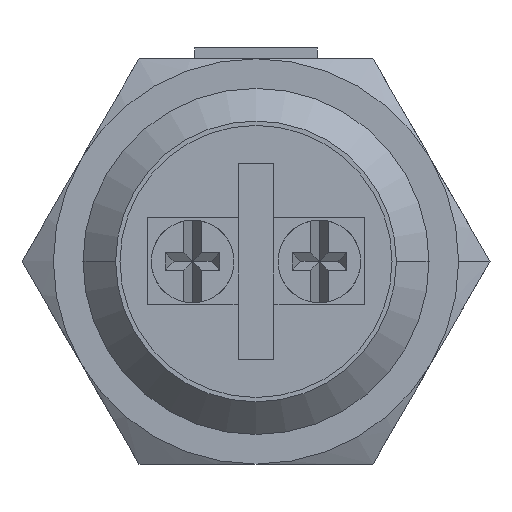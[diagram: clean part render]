
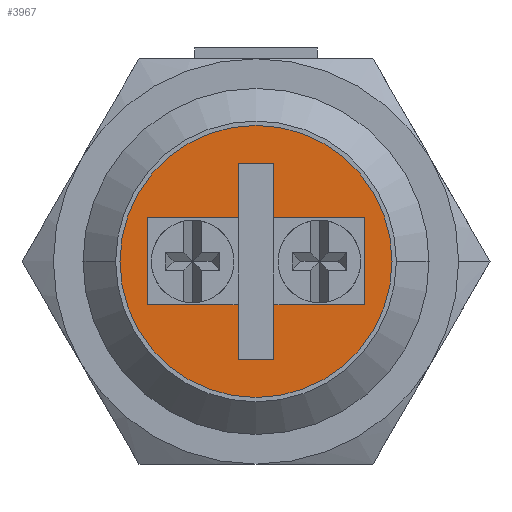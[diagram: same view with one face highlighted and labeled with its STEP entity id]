
A CAD part, front view. The second image highlights one B-rep face of the part: STEP entity #3967.
In plain terms, the highlighted planar face has unit normal (0, -1, 0).
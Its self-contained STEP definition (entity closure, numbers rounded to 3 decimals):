
#623 = LINE ( 'NONE', #624, #2750 ) ;
#624 = CARTESIAN_POINT ( 'NONE',  ( -0.825, 0., 4.5 ) ) ;
#625 = DIRECTION ( 'NONE',  ( -1., 0., 0. ) ) ;
#626 = LINE ( 'NONE', #627, #2714 ) ;
#627 = CARTESIAN_POINT ( 'NONE',  ( -0.825, 0., -4.5 ) ) ;
#628 = DIRECTION ( 'NONE',  ( 0., 0., -1. ) ) ;
#629 = LINE ( 'NONE', #630, #2713 ) ;
#630 = CARTESIAN_POINT ( 'NONE',  ( -5., 0., 2. ) ) ;
#631 = DIRECTION ( 'NONE',  ( -1., 0., 0. ) ) ;
#632 = LINE ( 'NONE', #633, #2712 ) ;
#633 = CARTESIAN_POINT ( 'NONE',  ( -5., 0., -2. ) ) ;
#634 = DIRECTION ( 'NONE',  ( 0., 0., -1. ) ) ;
#635 = LINE ( 'NONE', #636, #2711 ) ;
#636 = CARTESIAN_POINT ( 'NONE',  ( -5., 0., -2. ) ) ;
#637 = DIRECTION ( 'NONE',  ( 1., 0., 0. ) ) ;
#638 = LINE ( 'NONE', #639, #2710 ) ;
#639 = CARTESIAN_POINT ( 'NONE',  ( -0.825, 0., -4.5 ) ) ;
#640 = DIRECTION ( 'NONE',  ( 0., 0., -1. ) ) ;
#641 = LINE ( 'NONE', #642, #2748 ) ;
#642 = CARTESIAN_POINT ( 'NONE',  ( -0.825, 0., -4.5 ) ) ;
#643 = DIRECTION ( 'NONE',  ( 1., 0., 0. ) ) ;
#644 = LINE ( 'NONE', #645, #2361 ) ;
#645 = CARTESIAN_POINT ( 'NONE',  ( 0.825, 0., -4.5 ) ) ;
#646 = DIRECTION ( 'NONE',  ( 0., 0., 1. ) ) ;
#688 = PLANE ( 'NONE',  #2351 ) ;
#689 = CARTESIAN_POINT ( 'NONE',  ( 0., 0., 0. ) ) ;
#690 = DIRECTION ( 'NONE',  ( 0., -1., 0. ) ) ;
#691 = DIRECTION ( 'NONE',  ( 1., 0., 0. ) ) ;
#1130 = CARTESIAN_POINT ( 'NONE',  ( 0., 0., 0. ) ) ;
#1137 = DIRECTION ( 'NONE',  ( 0., 1., 0. ) ) ;
#1138 = DIRECTION ( 'NONE',  ( -1., 0., 0. ) ) ;
#1344 = CARTESIAN_POINT ( 'NONE',  ( -6.25, 0., 0. ) ) ;
#1373 = CARTESIAN_POINT ( 'NONE',  ( 6.25, 0., 0. ) ) ;
#1396 = CARTESIAN_POINT ( 'NONE',  ( -0.825, 0., -2. ) ) ;
#1403 = CARTESIAN_POINT ( 'NONE',  ( 0.825, 0., -4.5 ) ) ;
#1406 = CARTESIAN_POINT ( 'NONE',  ( -0.825, 0., -4.5 ) ) ;
#1407 = CARTESIAN_POINT ( 'NONE',  ( 5., 0., 2. ) ) ;
#1409 = CARTESIAN_POINT ( 'NONE',  ( 0.825, 0., 4.5 ) ) ;
#1417 = CARTESIAN_POINT ( 'NONE',  ( 5., 0., -2. ) ) ;
#1422 = CARTESIAN_POINT ( 'NONE',  ( 0.825, 0., -2. ) ) ;
#1423 = CARTESIAN_POINT ( 'NONE',  ( 0.825, 0., 2. ) ) ;
#1430 = CARTESIAN_POINT ( 'NONE',  ( -0.825, 0., 2. ) ) ;
#1431 = CARTESIAN_POINT ( 'NONE',  ( -0.825, 0., 4.5 ) ) ;
#1432 = CARTESIAN_POINT ( 'NONE',  ( -5., 0., -2. ) ) ;
#1436 = CARTESIAN_POINT ( 'NONE',  ( -5., 0., 2. ) ) ;
#2344 = FACE_OUTER_BOUND ( 'NONE', #5900, .T. ) ;
#2351 = AXIS2_PLACEMENT_3D ( 'NONE', #689, #690, #691 ) ;
#2354 = FACE_BOUND ( 'NONE', #5859, .T. ) ;
#2361 = VECTOR ( 'NONE', #646, 1000. ) ;
#2576 = AXIS2_PLACEMENT_3D ( 'NONE', #1130, #1137, #1138 ) ;
#2710 = VECTOR ( 'NONE', #640, 1000. ) ;
#2711 = VECTOR ( 'NONE', #637, 1000. ) ;
#2712 = VECTOR ( 'NONE', #634, 1000. ) ;
#2713 = VECTOR ( 'NONE', #631, 1000. ) ;
#2714 = VECTOR ( 'NONE', #628, 1000. ) ;
#2748 = VECTOR ( 'NONE', #643, 1000. ) ;
#2750 = VECTOR ( 'NONE', #625, 1000. ) ;
#3101 = VECTOR ( 'NONE', #5393, 1000. ) ;
#3122 = VECTOR ( 'NONE', #5384, 1000. ) ;
#3131 = VECTOR ( 'NONE', #5340, 1000. ) ;
#3199 = VECTOR ( 'NONE', #5333, 1000. ) ;
#3204 = AXIS2_PLACEMENT_3D ( 'NONE', #5334, #5341, #5342 ) ;
#3630 = CIRCLE ( 'NONE', #3204, 6.25 ) ;
#3695 = CIRCLE ( 'NONE', #2576, 6.25 ) ;
#3732 = EDGE_CURVE ( 'NONE', #5597, #5587, #5331, .T. ) ;
#3734 = EDGE_CURVE ( 'NONE', #5603, #5589, #5338, .T. ) ;
#3735 = EDGE_CURVE ( 'NONE', #5553, #5524, #3630, .T. ) ;
#3748 = EDGE_CURVE ( 'NONE', #5602, #5597, #5382, .T. ) ;
#3751 = EDGE_CURVE ( 'NONE', #5587, #5603, #5391, .T. ) ;
#3948 = EDGE_CURVE ( 'NONE', #5589, #5611, #623, .T. ) ;
#3949 = EDGE_CURVE ( 'NONE', #5611, #5610, #626, .T. ) ;
#3950 = EDGE_CURVE ( 'NONE', #5610, #5616, #629, .T. ) ;
#3951 = EDGE_CURVE ( 'NONE', #5616, #5612, #632, .T. ) ;
#3952 = EDGE_CURVE ( 'NONE', #5612, #5576, #635, .T. ) ;
#3953 = EDGE_CURVE ( 'NONE', #5576, #5586, #638, .T. ) ;
#3954 = EDGE_CURVE ( 'NONE', #5586, #5583, #641, .T. ) ;
#3955 = EDGE_CURVE ( 'NONE', #5583, #5602, #644, .T. ) ;
#3967 = ADVANCED_FACE ( 'NONE', ( #2344, #2354 ), #688, .T. ) ;
#4085 = EDGE_CURVE ( 'NONE', #5524, #5553, #3695, .T. ) ;
#5331 = LINE ( 'NONE', #5332, #3199 ) ;
#5332 = CARTESIAN_POINT ( 'NONE',  ( 5., 0., -2. ) ) ;
#5333 = DIRECTION ( 'NONE',  ( 0., 0., 1. ) ) ;
#5334 = CARTESIAN_POINT ( 'NONE',  ( 0., 0., 0. ) ) ;
#5338 = LINE ( 'NONE', #5339, #3131 ) ;
#5339 = CARTESIAN_POINT ( 'NONE',  ( 0.825, 0., -4.5 ) ) ;
#5340 = DIRECTION ( 'NONE',  ( 0., 0., 1. ) ) ;
#5341 = DIRECTION ( 'NONE',  ( 0., 1., 0. ) ) ;
#5342 = DIRECTION ( 'NONE',  ( -1., 0., 0. ) ) ;
#5382 = LINE ( 'NONE', #5383, #3122 ) ;
#5383 = CARTESIAN_POINT ( 'NONE',  ( -5., 0., -2. ) ) ;
#5384 = DIRECTION ( 'NONE',  ( 1., 0., 0. ) ) ;
#5391 = LINE ( 'NONE', #5392, #3101 ) ;
#5392 = CARTESIAN_POINT ( 'NONE',  ( -5., 0., 2. ) ) ;
#5393 = DIRECTION ( 'NONE',  ( -1., 0., 0. ) ) ;
#5524 = VERTEX_POINT ( 'NONE', #1344 ) ;
#5553 = VERTEX_POINT ( 'NONE', #1373 ) ;
#5576 = VERTEX_POINT ( 'NONE', #1396 ) ;
#5583 = VERTEX_POINT ( 'NONE', #1403 ) ;
#5586 = VERTEX_POINT ( 'NONE', #1406 ) ;
#5587 = VERTEX_POINT ( 'NONE', #1407 ) ;
#5589 = VERTEX_POINT ( 'NONE', #1409 ) ;
#5597 = VERTEX_POINT ( 'NONE', #1417 ) ;
#5602 = VERTEX_POINT ( 'NONE', #1422 ) ;
#5603 = VERTEX_POINT ( 'NONE', #1423 ) ;
#5610 = VERTEX_POINT ( 'NONE', #1430 ) ;
#5611 = VERTEX_POINT ( 'NONE', #1431 ) ;
#5612 = VERTEX_POINT ( 'NONE', #1432 ) ;
#5616 = VERTEX_POINT ( 'NONE', #1436 ) ;
#5859 = EDGE_LOOP ( 'NONE', ( #6245, #6244, #6247, #6243, #6242, #6240, #6241, #6239, #6238, #6237, #6236, #6235 ) ) ;
#5900 = EDGE_LOOP ( 'NONE', ( #6248, #6246 ) ) ;
#6235 = ORIENTED_EDGE ( 'NONE', *, *, #3948, .F. ) ;
#6236 = ORIENTED_EDGE ( 'NONE', *, *, #3949, .F. ) ;
#6237 = ORIENTED_EDGE ( 'NONE', *, *, #3950, .F. ) ;
#6238 = ORIENTED_EDGE ( 'NONE', *, *, #3951, .F. ) ;
#6239 = ORIENTED_EDGE ( 'NONE', *, *, #3952, .F. ) ;
#6240 = ORIENTED_EDGE ( 'NONE', *, *, #3954, .F. ) ;
#6241 = ORIENTED_EDGE ( 'NONE', *, *, #3953, .F. ) ;
#6242 = ORIENTED_EDGE ( 'NONE', *, *, #3955, .F. ) ;
#6243 = ORIENTED_EDGE ( 'NONE', *, *, #3748, .F. ) ;
#6244 = ORIENTED_EDGE ( 'NONE', *, *, #3751, .F. ) ;
#6245 = ORIENTED_EDGE ( 'NONE', *, *, #3734, .F. ) ;
#6246 = ORIENTED_EDGE ( 'NONE', *, *, #3735, .F. ) ;
#6247 = ORIENTED_EDGE ( 'NONE', *, *, #3732, .F. ) ;
#6248 = ORIENTED_EDGE ( 'NONE', *, *, #4085, .F. ) ;
